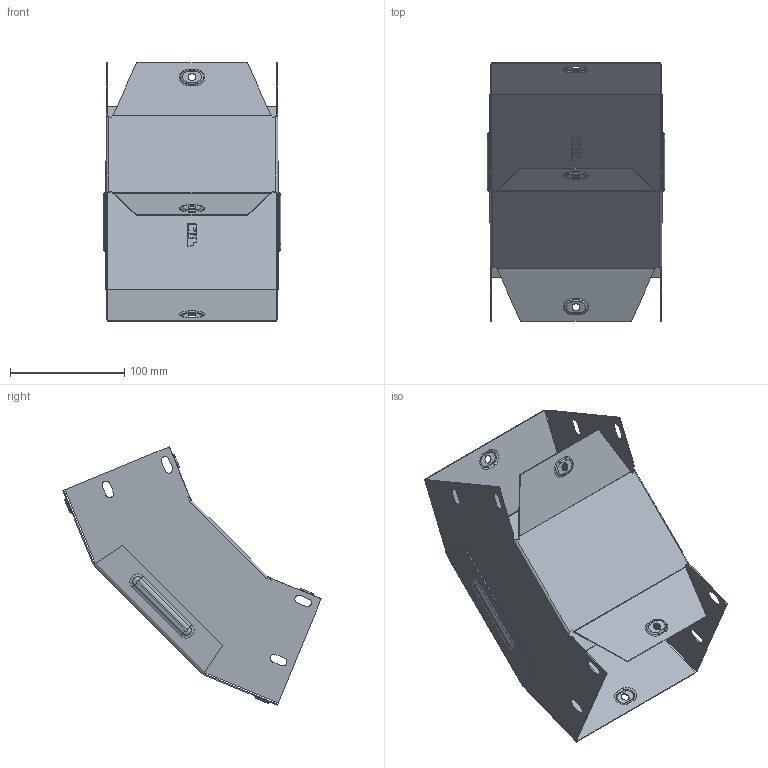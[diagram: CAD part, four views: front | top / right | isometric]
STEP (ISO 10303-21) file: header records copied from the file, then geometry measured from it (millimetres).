
FILE_DESCRIPTION (( 'STEP AP214' ), '1' );
FILE_NAME ('vo45100150_捘.STEP', '2019-06-10T08:17:33', ( '砐錪賧瘔蠈錪 Windows' ), ( '' ), 'SwSTEP 2.0', 'SolidWorks 2018', '' );
FILE_SCHEMA (( 'AUTOMOTIVE_DESIGN' ));
Length unit declared in the file: millimetre
Products named in the file (1): vo45100150_捘
Bounding box: 155.6 x 226.34 x 226.34 mm (x, y, z)
Volume: 96511.2 mm3; surface area: 243625.6 mm2
Topology: 2 solids, 2 shells, 372 faces, 918 edges, 572 vertices
Faces by surface type: plane 173, cylinder 118, torus 64, bspline 17
Entity records: 11622 total; most frequent: CARTESIAN_POINT 2627, DIRECTION 1896, ORIENTED_EDGE 1836, EDGE_CURVE 918, AXIS2_PLACEMENT_3D 672, VERTEX_POINT 572, LINE 552, VECTOR 552
